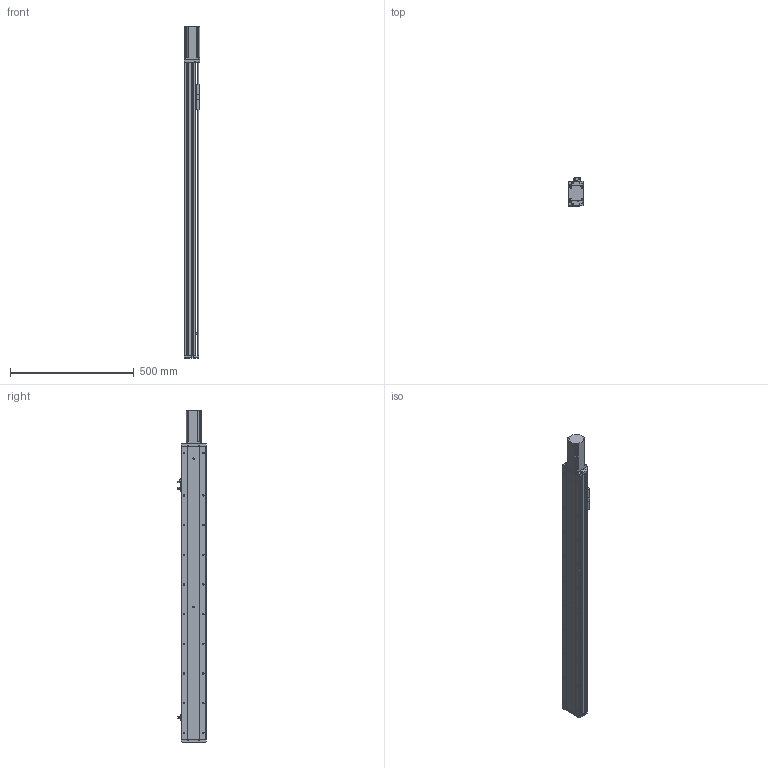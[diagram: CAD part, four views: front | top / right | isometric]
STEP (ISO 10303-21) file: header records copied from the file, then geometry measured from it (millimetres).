
FILE_DESCRIPTION (( 'STEP AP214' ), '1' );
FILE_NAME ('KSD100S-S950-MN-CM.STEP', '2019-08-30T07:46:38', ( '微软用户' ), ( '微软中国' ), 'SwSTEP 2.0', 'SolidWorks 2014', '' );
FILE_SCHEMA (( 'AUTOMOTIVE_DESIGN' ));
Length unit declared in the file: millimetre
Products named in the file (9): KSD100S-S950-MN-CM; 台达ECMA－C20604AS伺服电机; 覜茼え100遵圉猾敕; U倰嫖萇EEㄜSX672; 100宽防尘板丝杆950行程不带电机座; 100宽马达安装板不带电机座; 100宽滚珠螺姆安装板半封闭; 100遵傷啣; 100宽底板半封闭950行程丝杆不带电机座
Assembly tree (10 placements, depth 2):
  KSD100S-S950-MN-CM
    100宽底板半封闭950行程丝杆不带电机座
    100遵傷啣
    100宽滚珠螺姆安装板半封闭
    100宽马达安装板不带电机座
    100宽防尘板丝杆950行程不带电机座
    U倰嫖萇EEㄜSX672  x3
    覜茼え100遵圉猾敕
    台达ECMA－C20604AS伺服电机
Bounding box: 62 x 113.7 x 1342 mm (x, y, z)
Volume: 2741088.5 mm3; surface area: 872505.7 mm2
Topology: 11 solids, 11 shells, 1186 faces, 3368 edges, 2117 vertices
Faces by surface type: cylinder 575, plane 468, cone 143
Entity records: 41650 total; most frequent: CARTESIAN_POINT 8708, DIRECTION 5491, ORIENTED_EDGE 5356, EDGE_CURVE 2678, AXIS2_PLACEMENT_3D 1992, VERTEX_POINT 1741, LINE 1507, VECTOR 1507
